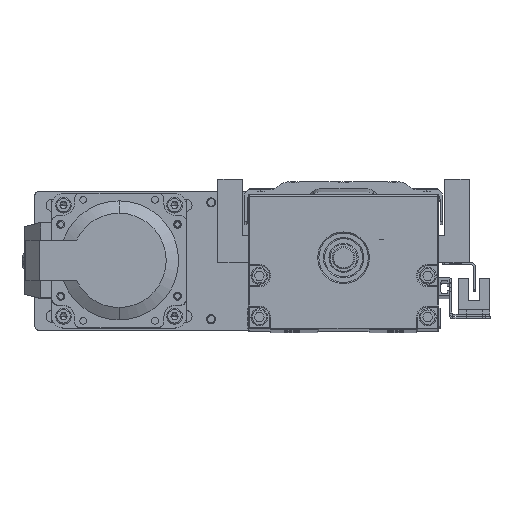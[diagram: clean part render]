
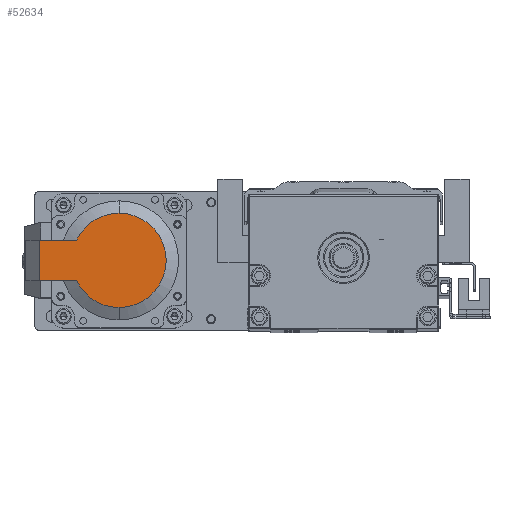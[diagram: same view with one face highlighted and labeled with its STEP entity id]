
A CAD part, top view. The second image highlights one B-rep face of the part: STEP entity #52634.
In plain terms, the highlighted planar face has unit normal (0, 0, 1).
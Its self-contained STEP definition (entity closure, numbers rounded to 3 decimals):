
#1999 = EDGE_CURVE ( 'NONE', #124121, #78155, #3014, .T. ) ;
#3014 = CIRCLE ( 'NONE', #114157, 21. ) ;
#4620 = EDGE_CURVE ( 'NONE', #66913, #89725, #120784, .T. ) ;
#10518 = ORIENTED_EDGE ( 'NONE', *, *, #132786, .F. ) ;
#13395 = CARTESIAN_POINT ( 'NONE',  ( 121.36, 3.277, 500.168 ) ) ;
#22006 = DIRECTION ( 'NONE',  ( 0., -1., 0. ) ) ;
#23849 = VECTOR ( 'NONE', #137780, 1000. ) ;
#27968 = AXIS2_PLACEMENT_3D ( 'NONE', #60596, #83573, #140984 ) ;
#31910 = VERTEX_POINT ( 'NONE', #63039 ) ;
#35069 = VERTEX_POINT ( 'NONE', #111619 ) ;
#35288 = DIRECTION ( 'NONE',  ( 0., 1., 0. ) ) ;
#36364 = EDGE_LOOP ( 'NONE', ( #10518, #92111, #86935, #88755, #101532, #137389 ) ) ;
#38254 = CARTESIAN_POINT ( 'NONE',  ( 121.36, 3.277, 500.168 ) ) ;
#43618 = CARTESIAN_POINT ( 'NONE',  ( 121.36, 21.277, 500.168 ) ) ;
#46791 = CARTESIAN_POINT ( 'NONE',  ( 121.36, 21.277, 500.168 ) ) ;
#49815 = PLANE ( 'NONE',  #27968 ) ;
#52014 = LINE ( 'NONE', #38254, #23849 ) ;
#52634 = ADVANCED_FACE ( 'NONE', ( #59344 ), #49815, .T. ) ;
#56190 = CARTESIAN_POINT ( 'NONE',  ( 85.777, 12.277, 500.168 ) ) ;
#56512 = DIRECTION ( 'NONE',  ( 0., 0., 1. ) ) ;
#57934 = AXIS2_PLACEMENT_3D ( 'NONE', #79328, #89616, #35288 ) ;
#59344 = FACE_OUTER_BOUND ( 'NONE', #36364, .T. ) ;
#60596 = CARTESIAN_POINT ( 'NONE',  ( 85.777, 33.277, 500.168 ) ) ;
#63039 = CARTESIAN_POINT ( 'NONE',  ( 104.751, 21.277, 500.168 ) ) ;
#65267 = EDGE_CURVE ( 'NONE', #31910, #124121, #75690, .T. ) ;
#66913 = VERTEX_POINT ( 'NONE', #46791 ) ;
#68148 = DIRECTION ( 'NONE',  ( 0., 0., 1. ) ) ;
#75690 = CIRCLE ( 'NONE', #100488, 21. ) ;
#77083 = DIRECTION ( 'NONE',  ( 0., 1., 0. ) ) ;
#78130 = CARTESIAN_POINT ( 'NONE',  ( 121.36, 21.277, 500.168 ) ) ;
#78155 = VERTEX_POINT ( 'NONE', #130994 ) ;
#78763 = VECTOR ( 'NONE', #110968, 1000. ) ;
#79312 = CARTESIAN_POINT ( 'NONE',  ( 85.777, 12.277, 500.168 ) ) ;
#79328 = CARTESIAN_POINT ( 'NONE',  ( 85.777, 12.277, 500.168 ) ) ;
#83573 = DIRECTION ( 'NONE',  ( 0., 0., 1. ) ) ;
#86935 = ORIENTED_EDGE ( 'NONE', *, *, #1999, .T. ) ;
#87758 = CIRCLE ( 'NONE', #57934, 21. ) ;
#88755 = ORIENTED_EDGE ( 'NONE', *, *, #126409, .T. ) ;
#89616 = DIRECTION ( 'NONE',  ( 0., 0., 1. ) ) ;
#89725 = VERTEX_POINT ( 'NONE', #13395 ) ;
#92111 = ORIENTED_EDGE ( 'NONE', *, *, #65267, .T. ) ;
#99622 = VECTOR ( 'NONE', #22006, 1000. ) ;
#100488 = AXIS2_PLACEMENT_3D ( 'NONE', #56190, #56512, #77083 ) ;
#101532 = ORIENTED_EDGE ( 'NONE', *, *, #117107, .T. ) ;
#103176 = CARTESIAN_POINT ( 'NONE',  ( 85.777, 33.277, 500.168 ) ) ;
#110968 = DIRECTION ( 'NONE',  ( 1., 0., 0. ) ) ;
#111619 = CARTESIAN_POINT ( 'NONE',  ( 104.751, 3.277, 500.168 ) ) ;
#114157 = AXIS2_PLACEMENT_3D ( 'NONE', #79312, #68148, #122993 ) ;
#117107 = EDGE_CURVE ( 'NONE', #35069, #89725, #52014, .T. ) ;
#120784 = LINE ( 'NONE', #43618, #99622 ) ;
#122993 = DIRECTION ( 'NONE',  ( 0., 1., 0. ) ) ;
#124121 = VERTEX_POINT ( 'NONE', #103176 ) ;
#126409 = EDGE_CURVE ( 'NONE', #78155, #35069, #87758, .T. ) ;
#130994 = CARTESIAN_POINT ( 'NONE',  ( 85.777, -8.723, 500.168 ) ) ;
#132786 = EDGE_CURVE ( 'NONE', #31910, #66913, #138453, .T. ) ;
#137389 = ORIENTED_EDGE ( 'NONE', *, *, #4620, .F. ) ;
#137780 = DIRECTION ( 'NONE',  ( 1., 0., 0. ) ) ;
#138453 = LINE ( 'NONE', #78130, #78763 ) ;
#140984 = DIRECTION ( 'NONE',  ( 0., 1., 0. ) ) ;
